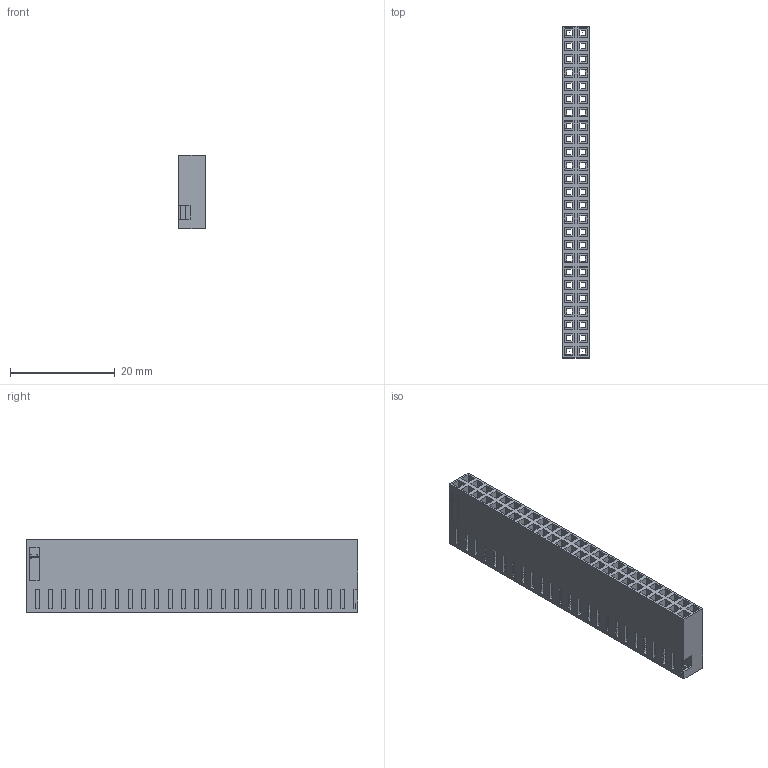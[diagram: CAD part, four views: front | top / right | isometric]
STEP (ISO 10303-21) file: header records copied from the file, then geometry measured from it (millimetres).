
FILE_DESCRIPTION(/* description */ (''),/* implementation_level */ '2;1');
FILE_NAME(/* name */ 'F:\CAD\CAD COMPLETE\web site project\Wiring Accessories\7853150-01-STP\7853150-01.stp',/* time_stamp */ '2016-01-14T16:22:59+00:00',/* author */ ('davecooper'),/* organization */ (''),/* preprocessor_version */ 'ST-DEVELOPER v15.2',/* originating_system */ 'Autodesk Inventor 2014',/* authorisation */ '');
FILE_SCHEMA (('AUTOMOTIVE_DESIGN { 1 0 10303 214 3 1 1 }'));
Length unit declared in the file: inch
Products named in the file (1): 7853150-01
Bounding box: 5.08 x 63.5 x 13.97 mm (x, y, z)
Volume: 2209.7 mm3; surface area: 7467.7 mm2
Topology: 5 solids, 5 shells, 1572 faces, 4372 edges, 2815 vertices
Faces by surface type: plane 1222, bspline 346, cylinder 4
Full cylindrical faces by diameter (mm): 0.025 x4
Entity records: 51321 total; most frequent: CARTESIAN_POINT 13252, ORIENTED_EDGE 8734, DIRECTION 6137, EDGE_CURVE 4367, LINE 3667, VECTOR 3667, VERTEX_POINT 2814, EDGE_LOOP 1781
